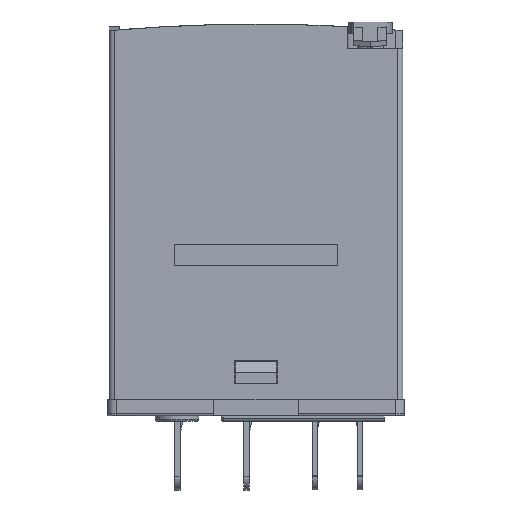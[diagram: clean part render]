
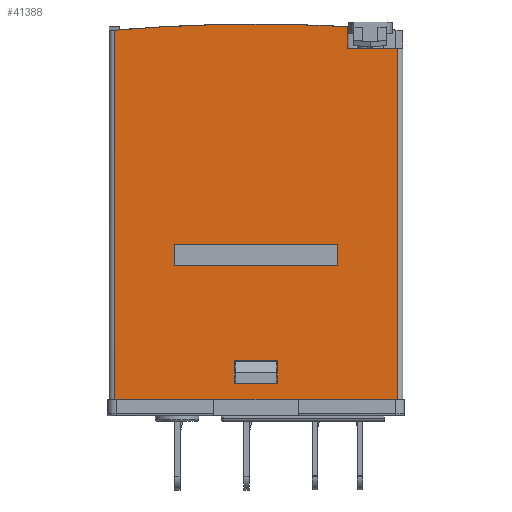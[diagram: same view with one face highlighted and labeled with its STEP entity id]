
A CAD part, left-side view. The second image highlights one B-rep face of the part: STEP entity #41388.
In plain terms, the highlighted planar face has unit normal (-1, 0, 0) as drawn and (0, -1, 0) by its records, which use the part's own axes.
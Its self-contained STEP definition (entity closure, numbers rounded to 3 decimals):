
#179 = DIRECTION ( 'NONE',  ( 0., -1., 0. ) ) ;
#719 = VECTOR ( 'NONE', #51352, 1000. ) ;
#1612 = VECTOR ( 'NONE', #10957, 1000. ) ;
#1613 = CARTESIAN_POINT ( 'NONE',  ( -7.5, -10.45, 12. ) ) ;
#2564 = DIRECTION ( 'NONE',  ( 0., 0., 1. ) ) ;
#3580 = EDGE_CURVE ( 'NONE', #55488, #8143, #81674, .T. ) ;
#3873 = LINE ( 'NONE', #68340, #70457 ) ;
#4391 = EDGE_CURVE ( 'NONE', #37022, #52797, #3873, .T. ) ;
#6131 = CARTESIAN_POINT ( 'NONE',  ( 2., -10.45, 3.6 ) ) ;
#6682 = ORIENTED_EDGE ( 'NONE', *, *, #3580, .T. ) ;
#8143 = VERTEX_POINT ( 'NONE', #8555 ) ;
#8190 = ORIENTED_EDGE ( 'NONE', *, *, #44850, .F. ) ;
#8555 = CARTESIAN_POINT ( 'NONE',  ( -13., -10.45, 33.644 ) ) ;
#9003 = EDGE_CURVE ( 'NONE', #26504, #62515, #48474, .T. ) ;
#9948 = CARTESIAN_POINT ( 'NONE',  ( -7.5, -10.45, 14. ) ) ;
#10957 = DIRECTION ( 'NONE',  ( 1., 0., 0. ) ) ;
#12030 = VERTEX_POINT ( 'NONE', #33400 ) ;
#12072 = VECTOR ( 'NONE', #2564, 1000. ) ;
#12827 = VERTEX_POINT ( 'NONE', #34418 ) ;
#13532 = EDGE_CURVE ( 'NONE', #56877, #28417, #52863, .T. ) ;
#13633 = CARTESIAN_POINT ( 'NONE',  ( -7.5, -10.45, 14. ) ) ;
#14271 = VECTOR ( 'NONE', #42497, 1000. ) ;
#15491 = ORIENTED_EDGE ( 'NONE', *, *, #4391, .F. ) ;
#15610 = CARTESIAN_POINT ( 'NONE',  ( 7.5, -10.45, 14. ) ) ;
#16030 = ORIENTED_EDGE ( 'NONE', *, *, #30624, .T. ) ;
#16417 = VECTOR ( 'NONE', #55173, 1000. ) ;
#16450 = CARTESIAN_POINT ( 'NONE',  ( 13., -10.45, 34.5 ) ) ;
#17176 = DIRECTION ( 'NONE',  ( 0., 0., -1. ) ) ;
#17284 = CARTESIAN_POINT ( 'NONE',  ( -7.5, -10.45, 12. ) ) ;
#18570 = DIRECTION ( 'NONE',  ( 0., 0., 1. ) ) ;
#18649 = VECTOR ( 'NONE', #33998, 1000. ) ;
#19264 = VECTOR ( 'NONE', #19635, 1000. ) ;
#19635 = DIRECTION ( 'NONE',  ( 1., 0., 0. ) ) ;
#20111 = DIRECTION ( 'NONE',  ( 0., 0., -1. ) ) ;
#20361 = CARTESIAN_POINT ( 'NONE',  ( -13.5, -10.45, 34.5 ) ) ;
#21043 = AXIS2_PLACEMENT_3D ( 'NONE', #70871, #32333, #77362 ) ;
#21900 = DIRECTION ( 'NONE',  ( 1., 0., 0. ) ) ;
#22337 = ORIENTED_EDGE ( 'NONE', *, *, #55359, .F. ) ;
#23691 = CARTESIAN_POINT ( 'NONE',  ( -13., -10.45, -0.3 ) ) ;
#25886 = FACE_OUTER_BOUND ( 'NONE', #54513, .T. ) ;
#26378 = VERTEX_POINT ( 'NONE', #35413 ) ;
#26504 = VERTEX_POINT ( 'NONE', #17284 ) ;
#26881 = DIRECTION ( 'NONE',  ( 0., 1., 0. ) ) ;
#27248 = EDGE_CURVE ( 'NONE', #12827, #12030, #56605, .T. ) ;
#27931 = FACE_BOUND ( 'NONE', #46608, .T. ) ;
#28417 = VERTEX_POINT ( 'NONE', #73195 ) ;
#30030 = VECTOR ( 'NONE', #17176, 1000. ) ;
#30624 = EDGE_CURVE ( 'NONE', #37022, #50505, #68169, .T. ) ;
#31108 = ORIENTED_EDGE ( 'NONE', *, *, #55274, .F. ) ;
#32063 = CARTESIAN_POINT ( 'NONE',  ( 13., -10.45, -0.3 ) ) ;
#32333 = DIRECTION ( 'NONE',  ( 0., -1., 0. ) ) ;
#32594 = CARTESIAN_POINT ( 'NONE',  ( 7.5, -10.45, 12. ) ) ;
#33344 = LINE ( 'NONE', #47800, #12072 ) ;
#33400 = CARTESIAN_POINT ( 'NONE',  ( 8.4, -10.45, 33.968 ) ) ;
#33998 = DIRECTION ( 'NONE',  ( -1., 0., 0. ) ) ;
#34418 = CARTESIAN_POINT ( 'NONE',  ( 8.4, -10.45, 32. ) ) ;
#35068 = LINE ( 'NONE', #6131, #719 ) ;
#35301 = CARTESIAN_POINT ( 'NONE',  ( -2., -10.45, 1.2 ) ) ;
#35370 = ORIENTED_EDGE ( 'NONE', *, *, #67478, .F. ) ;
#35413 = CARTESIAN_POINT ( 'NONE',  ( -7.5, -10.45, 14. ) ) ;
#36512 = LINE ( 'NONE', #77703, #19264 ) ;
#37022 = VERTEX_POINT ( 'NONE', #71681 ) ;
#38871 = CARTESIAN_POINT ( 'NONE',  ( 0., -10.45, -117.975 ) ) ;
#39901 = DIRECTION ( 'NONE',  ( 1., 0., 0. ) ) ;
#39985 = AXIS2_PLACEMENT_3D ( 'NONE', #20361, #26881, #71945 ) ;
#41358 = CARTESIAN_POINT ( 'NONE',  ( 0., -10.45, 34.2 ) ) ;
#41388 = ADVANCED_FACE ( 'NONE', ( #77324, #25886, #27931 ), #65471, .F. ) ;
#42497 = DIRECTION ( 'NONE',  ( -1., 0., 0. ) ) ;
#44850 = EDGE_CURVE ( 'NONE', #12827, #28417, #36512, .T. ) ;
#45358 = CIRCLE ( 'NONE', #21043, 152.175 ) ;
#45411 = DIRECTION ( 'NONE',  ( 0., 0., 1. ) ) ;
#45589 = EDGE_CURVE ( 'NONE', #62515, #65051, #33344, .T. ) ;
#46608 = EDGE_LOOP ( 'NONE', ( #66574, #31108, #81985, #78480 ) ) ;
#47556 = VERTEX_POINT ( 'NONE', #23691 ) ;
#47800 = CARTESIAN_POINT ( 'NONE',  ( 7.5, -10.45, 14. ) ) ;
#48273 = EDGE_CURVE ( 'NONE', #65051, #26378, #65725, .T. ) ;
#48474 = LINE ( 'NONE', #1613, #61475 ) ;
#49307 = DIRECTION ( 'NONE',  ( 0., 0., -1. ) ) ;
#49728 = CARTESIAN_POINT ( 'NONE',  ( -13., -10.45, 34.5 ) ) ;
#49729 = ORIENTED_EDGE ( 'NONE', *, *, #75164, .F. ) ;
#50505 = VERTEX_POINT ( 'NONE', #79211 ) ;
#51352 = DIRECTION ( 'NONE',  ( 0., 0., 1. ) ) ;
#52440 = LINE ( 'NONE', #60581, #56497 ) ;
#52559 = VECTOR ( 'NONE', #18570, 1000. ) ;
#52776 = CARTESIAN_POINT ( 'NONE',  ( 2., -10.45, 1.2 ) ) ;
#52797 = VERTEX_POINT ( 'NONE', #35301 ) ;
#52863 = LINE ( 'NONE', #16450, #16417 ) ;
#54513 = EDGE_LOOP ( 'NONE', ( #55034, #68567, #6682, #77194, #22337, #71942, #8190 ) ) ;
#55034 = ORIENTED_EDGE ( 'NONE', *, *, #27248, .T. ) ;
#55075 = LINE ( 'NONE', #59658, #18649 ) ;
#55173 = DIRECTION ( 'NONE',  ( 0., 0., 1. ) ) ;
#55274 = EDGE_CURVE ( 'NONE', #26378, #26504, #61081, .T. ) ;
#55359 = EDGE_CURVE ( 'NONE', #56877, #47556, #55075, .T. ) ;
#55488 = VERTEX_POINT ( 'NONE', #41358 ) ;
#56359 = VERTEX_POINT ( 'NONE', #52776 ) ;
#56497 = VECTOR ( 'NONE', #21900, 1000. ) ;
#56605 = LINE ( 'NONE', #57262, #52559 ) ;
#56877 = VERTEX_POINT ( 'NONE', #32063 ) ;
#57262 = CARTESIAN_POINT ( 'NONE',  ( 8.4, -10.45, 32. ) ) ;
#59658 = CARTESIAN_POINT ( 'NONE',  ( -13., -10.45, -0.3 ) ) ;
#60581 = CARTESIAN_POINT ( 'NONE',  ( -2., -10.45, 1.2 ) ) ;
#61081 = LINE ( 'NONE', #13633, #76152 ) ;
#61475 = VECTOR ( 'NONE', #39901, 1000. ) ;
#61974 = AXIS2_PLACEMENT_3D ( 'NONE', #38871, #179, #45411 ) ;
#62515 = VERTEX_POINT ( 'NONE', #32594 ) ;
#62578 = CARTESIAN_POINT ( 'NONE',  ( -2., -10.45, 3.3 ) ) ;
#64287 = LINE ( 'NONE', #49728, #30030 ) ;
#65051 = VERTEX_POINT ( 'NONE', #15610 ) ;
#65471 = PLANE ( 'NONE',  #39985 ) ;
#65725 = LINE ( 'NONE', #9948, #14271 ) ;
#66574 = ORIENTED_EDGE ( 'NONE', *, *, #9003, .F. ) ;
#67478 = EDGE_CURVE ( 'NONE', #52797, #56359, #52440, .T. ) ;
#67826 = EDGE_CURVE ( 'NONE', #12030, #55488, #45358, .T. ) ;
#68169 = LINE ( 'NONE', #62578, #1612 ) ;
#68340 = CARTESIAN_POINT ( 'NONE',  ( -2., -10.45, 3.6 ) ) ;
#68567 = ORIENTED_EDGE ( 'NONE', *, *, #67826, .T. ) ;
#70457 = VECTOR ( 'NONE', #49307, 1000. ) ;
#70871 = CARTESIAN_POINT ( 'NONE',  ( 0., -10.45, -117.975 ) ) ;
#71681 = CARTESIAN_POINT ( 'NONE',  ( -2., -10.45, 3.3 ) ) ;
#71942 = ORIENTED_EDGE ( 'NONE', *, *, #13532, .T. ) ;
#71945 = DIRECTION ( 'NONE',  ( 0., 0., 1. ) ) ;
#73195 = CARTESIAN_POINT ( 'NONE',  ( 13., -10.45, 32. ) ) ;
#74990 = EDGE_CURVE ( 'NONE', #8143, #47556, #64287, .T. ) ;
#75164 = EDGE_CURVE ( 'NONE', #56359, #50505, #35068, .T. ) ;
#76152 = VECTOR ( 'NONE', #20111, 1000. ) ;
#77194 = ORIENTED_EDGE ( 'NONE', *, *, #74990, .T. ) ;
#77324 = FACE_BOUND ( 'NONE', #82864, .T. ) ;
#77362 = DIRECTION ( 'NONE',  ( 0., 0., 1. ) ) ;
#77703 = CARTESIAN_POINT ( 'NONE',  ( 13.5, -10.45, 32. ) ) ;
#78480 = ORIENTED_EDGE ( 'NONE', *, *, #45589, .F. ) ;
#79211 = CARTESIAN_POINT ( 'NONE',  ( 2., -10.45, 3.3 ) ) ;
#81674 = CIRCLE ( 'NONE', #61974, 152.175 ) ;
#81985 = ORIENTED_EDGE ( 'NONE', *, *, #48273, .F. ) ;
#82864 = EDGE_LOOP ( 'NONE', ( #15491, #16030, #49729, #35370 ) ) ;
